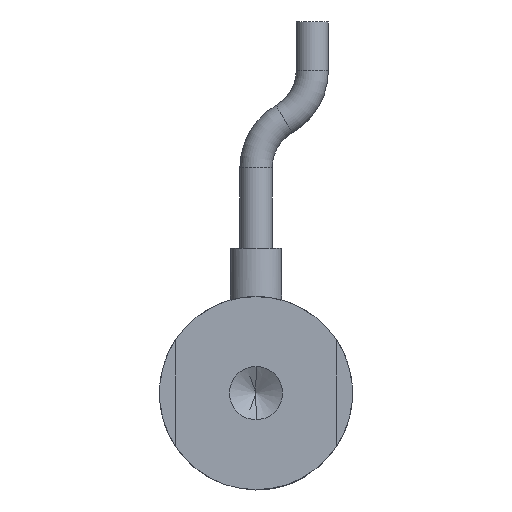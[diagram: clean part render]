
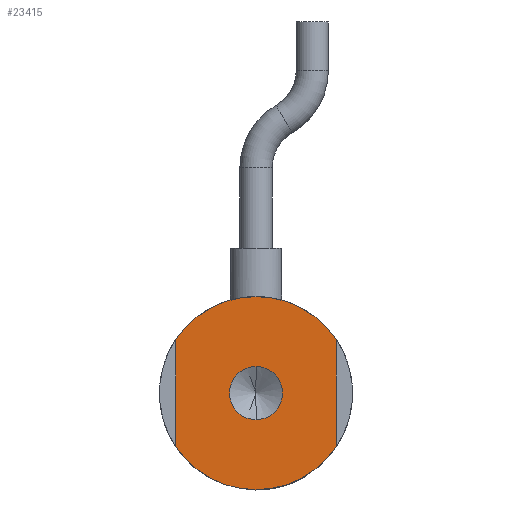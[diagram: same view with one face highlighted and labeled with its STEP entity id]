
A CAD part, front view. The second image highlights one B-rep face of the part: STEP entity #23415.
In plain terms, the highlighted planar face has unit normal (0, -1, 0).
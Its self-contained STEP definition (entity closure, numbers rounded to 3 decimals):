
#129 = ORIENTED_EDGE ( 'NONE', *, *, #36582, .F. ) ;
#537 = CARTESIAN_POINT ( 'NONE',  ( -5., 0., 0. ) ) ;
#544 = DIRECTION ( 'NONE',  ( 0., 1., 0. ) ) ;
#898 = CARTESIAN_POINT ( 'NONE',  ( 0., 0., -1.65 ) ) ;
#1113 = AXIS2_PLACEMENT_3D ( 'NONE', #20520, #43780, #23862 ) ;
#1386 = DIRECTION ( 'NONE',  ( 0., -1., 0. ) ) ;
#1562 = CARTESIAN_POINT ( 'NONE',  ( 0., 0., 6. ) ) ;
#1729 = ORIENTED_EDGE ( 'NONE', *, *, #12639, .F. ) ;
#2728 = CARTESIAN_POINT ( 'NONE',  ( 0., 0., -6. ) ) ;
#2785 = FACE_OUTER_BOUND ( 'NONE', #16503, .T. ) ;
#2972 = EDGE_CURVE ( 'NONE', #31741, #28532, #22538, .T. ) ;
#3593 = DIRECTION ( 'NONE',  ( 0., 0., -1. ) ) ;
#3674 = DIRECTION ( 'NONE',  ( 0., 0., 1. ) ) ;
#3689 = CARTESIAN_POINT ( 'NONE',  ( 5., 0., 3.317 ) ) ;
#3953 = ORIENTED_EDGE ( 'NONE', *, *, #25256, .F. ) ;
#4572 = AXIS2_PLACEMENT_3D ( 'NONE', #9365, #32929, #12852 ) ;
#4716 = CARTESIAN_POINT ( 'NONE',  ( -5., 0., 3.317 ) ) ;
#6523 = CIRCLE ( 'NONE', #4572, 6. ) ;
#8033 = CARTESIAN_POINT ( 'NONE',  ( 0., 0., 1.65 ) ) ;
#8182 = CARTESIAN_POINT ( 'NONE',  ( 0., 0., 0. ) ) ;
#8187 = CIRCLE ( 'NONE', #27835, 6. ) ;
#8396 = VERTEX_POINT ( 'NONE', #1562 ) ;
#9365 = CARTESIAN_POINT ( 'NONE',  ( 0., 0., 0. ) ) ;
#9490 = CARTESIAN_POINT ( 'NONE',  ( 0., 0., 0. ) ) ;
#10418 = AXIS2_PLACEMENT_3D ( 'NONE', #9490, #33037, #12964 ) ;
#10979 = EDGE_CURVE ( 'NONE', #37384, #16178, #27899, .T. ) ;
#11720 = DIRECTION ( 'NONE',  ( 0., 1., 0. ) ) ;
#12639 = EDGE_CURVE ( 'NONE', #31830, #31990, #23225, .T. ) ;
#12852 = DIRECTION ( 'NONE',  ( 0., 0., 1. ) ) ;
#12964 = DIRECTION ( 'NONE',  ( 0., 0., -1. ) ) ;
#13577 = EDGE_CURVE ( 'NONE', #16178, #37384, #20606, .T. ) ;
#13751 = DIRECTION ( 'NONE',  ( 0., 1., 0. ) ) ;
#14638 = VECTOR ( 'NONE', #3674, 1000. ) ;
#15008 = ORIENTED_EDGE ( 'NONE', *, *, #37910, .F. ) ;
#16178 = VERTEX_POINT ( 'NONE', #898 ) ;
#16400 = VERTEX_POINT ( 'NONE', #3689 ) ;
#16503 = EDGE_LOOP ( 'NONE', ( #19758, #3953, #1729, #129, #25356, #15008 ) ) ;
#19758 = ORIENTED_EDGE ( 'NONE', *, *, #2972, .F. ) ;
#20520 = CARTESIAN_POINT ( 'NONE',  ( 0., 0., 0. ) ) ;
#20606 = CIRCLE ( 'NONE', #25550, 1.65 ) ;
#21254 = CARTESIAN_POINT ( 'NONE',  ( 0., 0., 0. ) ) ;
#22047 = CARTESIAN_POINT ( 'NONE',  ( 0., 0., 0. ) ) ;
#22538 = LINE ( 'NONE', #537, #14638 ) ;
#23225 = CIRCLE ( 'NONE', #1113, 6. ) ;
#23415 = ADVANCED_FACE ( 'NONE', ( #28944, #2785 ), #28350, .F. ) ;
#23862 = DIRECTION ( 'NONE',  ( 0., 0., 1. ) ) ;
#24582 = DIRECTION ( 'NONE',  ( 0., 0., 1. ) ) ;
#25256 = EDGE_CURVE ( 'NONE', #31990, #31741, #6523, .T. ) ;
#25351 = DIRECTION ( 'NONE',  ( 0., 0., -1. ) ) ;
#25356 = ORIENTED_EDGE ( 'NONE', *, *, #28048, .F. ) ;
#25550 = AXIS2_PLACEMENT_3D ( 'NONE', #22047, #1386, #25351 ) ;
#25900 = CARTESIAN_POINT ( 'NONE',  ( 5., 0., -3.317 ) ) ;
#26259 = AXIS2_PLACEMENT_3D ( 'NONE', #8182, #11720, #35170 ) ;
#27705 = VECTOR ( 'NONE', #3593, 1000. ) ;
#27835 = AXIS2_PLACEMENT_3D ( 'NONE', #21254, #544, #24582 ) ;
#27899 = CIRCLE ( 'NONE', #10418, 1.65 ) ;
#28048 = EDGE_CURVE ( 'NONE', #8396, #16400, #8187, .T. ) ;
#28350 = PLANE ( 'NONE',  #26259 ) ;
#28532 = VERTEX_POINT ( 'NONE', #4716 ) ;
#28944 = FACE_BOUND ( 'NONE', #41619, .T. ) ;
#31256 = CIRCLE ( 'NONE', #34379, 6. ) ;
#31741 = VERTEX_POINT ( 'NONE', #34660 ) ;
#31830 = VERTEX_POINT ( 'NONE', #25900 ) ;
#31990 = VERTEX_POINT ( 'NONE', #2728 ) ;
#32929 = DIRECTION ( 'NONE',  ( 0., 1., 0. ) ) ;
#33037 = DIRECTION ( 'NONE',  ( 0., -1., 0. ) ) ;
#33783 = CARTESIAN_POINT ( 'NONE',  ( 0., 0., 0. ) ) ;
#34379 = AXIS2_PLACEMENT_3D ( 'NONE', #33783, #13751, #37150 ) ;
#34660 = CARTESIAN_POINT ( 'NONE',  ( -5., 0., -3.317 ) ) ;
#34754 = ORIENTED_EDGE ( 'NONE', *, *, #10979, .F. ) ;
#35170 = DIRECTION ( 'NONE',  ( 0., 0., 1. ) ) ;
#36539 = LINE ( 'NONE', #43874, #27705 ) ;
#36582 = EDGE_CURVE ( 'NONE', #16400, #31830, #36539, .T. ) ;
#37150 = DIRECTION ( 'NONE',  ( 0., 0., 1. ) ) ;
#37384 = VERTEX_POINT ( 'NONE', #8033 ) ;
#37910 = EDGE_CURVE ( 'NONE', #28532, #8396, #31256, .T. ) ;
#41619 = EDGE_LOOP ( 'NONE', ( #43062, #34754 ) ) ;
#43062 = ORIENTED_EDGE ( 'NONE', *, *, #13577, .F. ) ;
#43780 = DIRECTION ( 'NONE',  ( 0., 1., 0. ) ) ;
#43874 = CARTESIAN_POINT ( 'NONE',  ( 5., 0., 0. ) ) ;
